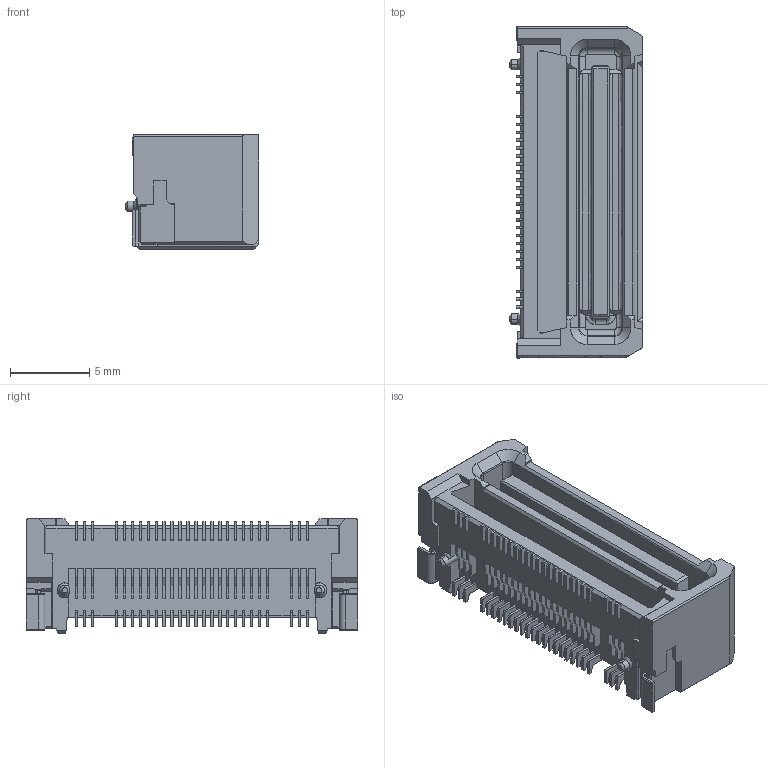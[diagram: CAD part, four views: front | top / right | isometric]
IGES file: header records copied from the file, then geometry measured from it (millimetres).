
Start section: SolidWorks IGES file using analytic representation for surfaces
Global section: file name: Q:\Kamikawa_Hisako\170913\24_5656_052_101_829_+_T.IGS; native system: SolidWorks 2014; preprocessor: SolidWorks 2014; author: 151066016; date: 170914.102251; units: millimetre
Bounding box: 8.4 x 20.88 x 7.2 mm (x, y, z)
Surface area: 1242.1 mm2 (no closed solid volume)
Topology: 0 solids, 0 shells, 1027 faces, 6700 edges, 6700 vertices
Faces by surface type: bspline 918, revolution 109
